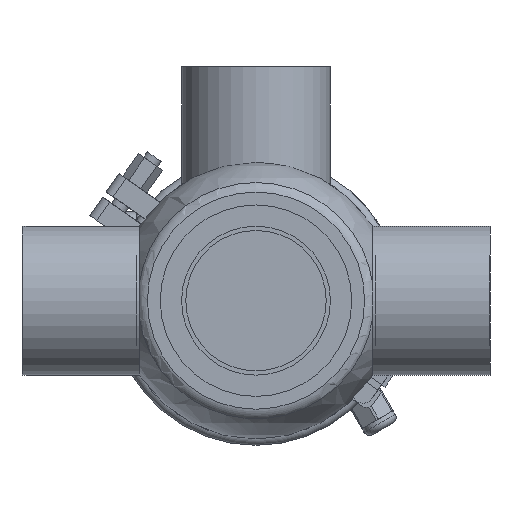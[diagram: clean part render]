
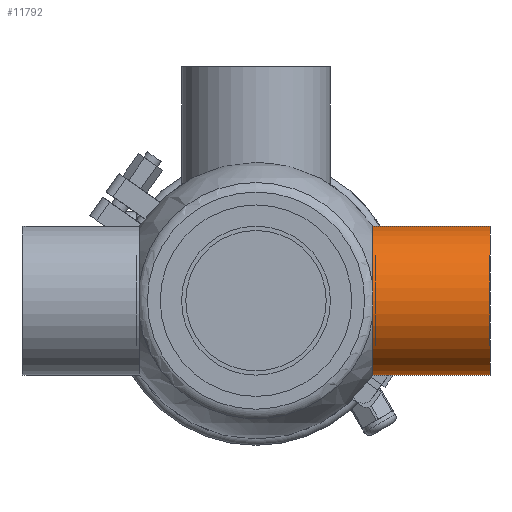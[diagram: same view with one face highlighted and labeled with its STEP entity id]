
A CAD part, front view. The second image highlights one B-rep face of the part: STEP entity #11792.
In plain terms, the highlighted cylindrical face has radius 35 mm (diameter 70 mm), a full revolution.
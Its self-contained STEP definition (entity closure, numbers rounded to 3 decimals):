
#547 = FACE_OUTER_BOUND ( 'NONE', #36649, .T. ) ;
#2653 = CARTESIAN_POINT ( 'NONE',  ( 55., 0., 35. ) ) ;
#3799 = EDGE_CURVE ( 'NONE', #16086, #16086, #17235, .T. ) ;
#5022 = ORIENTED_EDGE ( 'NONE', *, *, #3799, .T. ) ;
#11792 = ADVANCED_FACE ( 'NONE', ( #18810, #547 ), #43671, .T. ) ;
#16086 = VERTEX_POINT ( 'NONE', #25138 ) ;
#17235 = CIRCLE ( 'NONE', #25213, 35. ) ;
#17521 = AXIS2_PLACEMENT_3D ( 'NONE', #54653, #58725, #44458 ) ;
#18672 = EDGE_CURVE ( 'NONE', #54522, #54522, #57241, .T. ) ;
#18810 = FACE_OUTER_BOUND ( 'NONE', #47242, .T. ) ;
#19040 = AXIS2_PLACEMENT_3D ( 'NONE', #37721, #19749, #56701 ) ;
#19749 = DIRECTION ( 'NONE',  ( -1., 0., 0. ) ) ;
#22131 = DIRECTION ( 'NONE',  ( 0., 0., 1. ) ) ;
#25138 = CARTESIAN_POINT ( 'NONE',  ( 110., 0., 35. ) ) ;
#25213 = AXIS2_PLACEMENT_3D ( 'NONE', #54703, #50968, #22131 ) ;
#36649 = EDGE_LOOP ( 'NONE', ( #42939 ) ) ;
#37721 = CARTESIAN_POINT ( 'NONE',  ( 0., 0., 0. ) ) ;
#42939 = ORIENTED_EDGE ( 'NONE', *, *, #18672, .F. ) ;
#43671 = CYLINDRICAL_SURFACE ( 'NONE', #19040, 35. ) ;
#44458 = DIRECTION ( 'NONE',  ( 0., 0., 1. ) ) ;
#47242 = EDGE_LOOP ( 'NONE', ( #5022 ) ) ;
#50968 = DIRECTION ( 'NONE',  ( -1., 0., 0. ) ) ;
#54522 = VERTEX_POINT ( 'NONE', #2653 ) ;
#54653 = CARTESIAN_POINT ( 'NONE',  ( 55., 0., 0. ) ) ;
#54703 = CARTESIAN_POINT ( 'NONE',  ( 110., 0., 0. ) ) ;
#56701 = DIRECTION ( 'NONE',  ( 0., 0., 1. ) ) ;
#57241 = CIRCLE ( 'NONE', #17521, 35. ) ;
#58725 = DIRECTION ( 'NONE',  ( -1., 0., 0. ) ) ;
